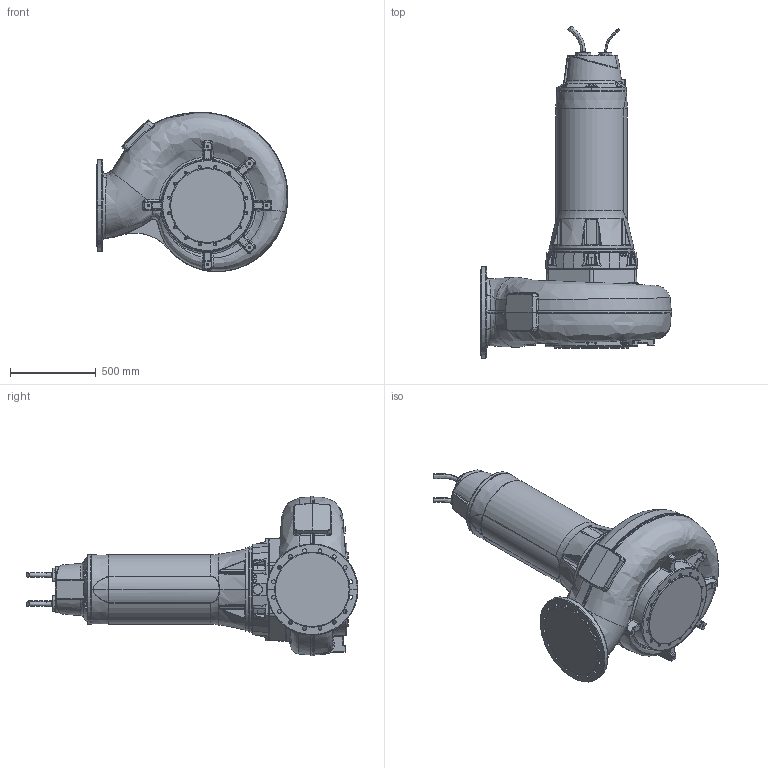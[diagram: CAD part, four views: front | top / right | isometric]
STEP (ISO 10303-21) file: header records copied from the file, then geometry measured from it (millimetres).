
FILE_DESCRIPTION (( 'STEP AP214' ), '1' );
FILE_NAME ('PE5_XFP351M-CH3_MOTOR OK_B_NG2.STEP', '2017-03-08T12:07:04', ( '' ), ( '' ), 'SwSTEP 2.0', 'SolidWorks 2017', '' );
FILE_SCHEMA (( 'AUTOMOTIVE_DESIGN' ));
Length unit declared in the file: millimetre
Products named in the file (1): PE5_XFP351M-CH3_MOTOR OK_B_NG2
Bounding box: 1118.47 x 1935.58 x 929.7 mm (x, y, z)
Volume: 428695869.4 mm3; surface area: 4765568.7 mm2
Topology: 1 solids, 1 shells, 1589 faces, 4055 edges, 2444 vertices
Faces by surface type: bspline 617, cylinder 376, plane 273, cone 159, torus 148, sphere 16
Entity records: 139965 total; most frequent: CARTESIAN_POINT 89736, ORIENTED_EDGE 7966, DIRECTION 5312, EDGE_CURVE 3983, VERTEX_POINT 2444, AXIS2_PLACEMENT_3D 2162, B_SPLINE_CURVE_WITH_KNOTS 1685, EDGE_LOOP 1669
